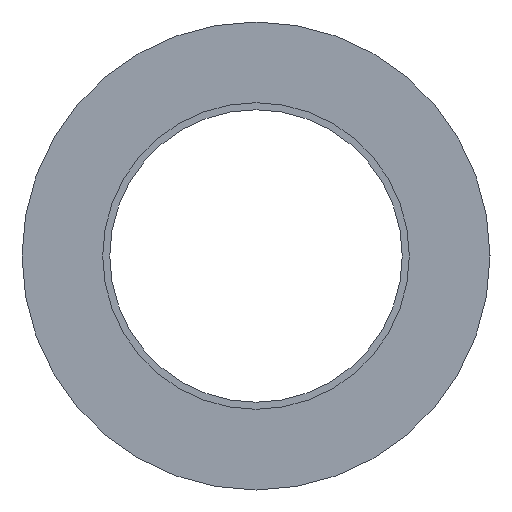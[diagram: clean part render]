
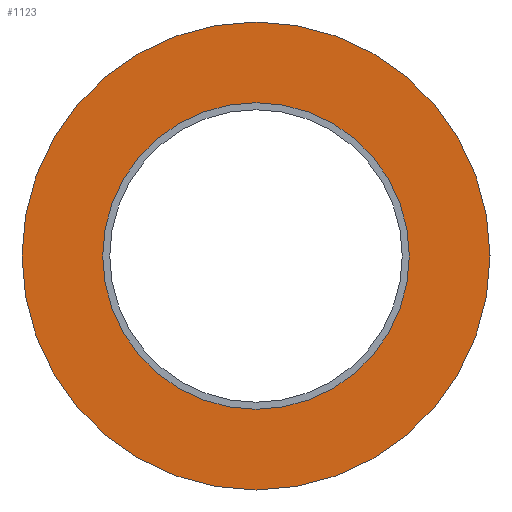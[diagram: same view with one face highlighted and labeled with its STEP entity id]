
A CAD part, left-side view. The second image highlights one B-rep face of the part: STEP entity #1123.
In plain terms, the highlighted planar face has unit normal (-1, 0, 0).
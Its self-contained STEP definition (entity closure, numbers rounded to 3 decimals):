
#49=CARTESIAN_POINT('',(-100.0,13.1,0.0));
#50=VERTEX_POINT('',#49);
#59=CARTESIAN_POINT('',(-100.0,-13.1,0.));
#60=VERTEX_POINT('',#59);
#61=CARTESIAN_POINT('',(-100.0,0.0,0.0));
#62=DIRECTION('',(1.0,0.0,0.0));
#63=DIRECTION('',(0.0,1.0,0.0));
#64=AXIS2_PLACEMENT_3D('',#61,#62,#63);
#65=CIRCLE('',#64,13.1);
#66=EDGE_CURVE('',#60,#50,#65,.T.);
#278=CARTESIAN_POINT('',(-100.0,20.0,0.0));
#279=VERTEX_POINT('',#278);
#288=CARTESIAN_POINT('',(-100.0,-20.0,0.));
#289=VERTEX_POINT('',#288);
#290=CARTESIAN_POINT('',(-100.0,0.0,0.0));
#291=DIRECTION('',(1.0,0.0,0.0));
#292=DIRECTION('',(0.0,1.0,0.0));
#293=AXIS2_PLACEMENT_3D('',#290,#291,#292);
#294=CIRCLE('',#293,20.0);
#295=EDGE_CURVE('',#279,#289,#294,.T.);
#947=CARTESIAN_POINT('',(-100.0,0.0,0.0));
#948=DIRECTION('',(1.0,0.0,0.0));
#949=DIRECTION('',(0.0,1.0,0.0));
#950=AXIS2_PLACEMENT_3D('',#947,#948,#949);
#951=CIRCLE('',#950,20.0);
#952=EDGE_CURVE('',#289,#279,#951,.T.);
#1100=CARTESIAN_POINT('',(-100.0,0.0,0.0));
#1101=DIRECTION('',(1.0,0.0,0.0));
#1102=DIRECTION('',(0.0,1.0,0.0));
#1103=AXIS2_PLACEMENT_3D('',#1100,#1101,#1102);
#1104=CIRCLE('',#1103,13.1);
#1105=EDGE_CURVE('',#50,#60,#1104,.T.);
#1110=CARTESIAN_POINT('',(-100.0,16.55,0.0));
#1111=DIRECTION('',(-1.0,0.0,0.0));
#1112=DIRECTION('',(0.0,0.0,1.0));
#1113=AXIS2_PLACEMENT_3D('',#1110,#1111,#1112);
#1114=PLANE('',#1113);
#1115=ORIENTED_EDGE('',*,*,#295,.F.);
#1116=ORIENTED_EDGE('',*,*,#952,.F.);
#1117=EDGE_LOOP('',(#1115,#1116));
#1118=FACE_OUTER_BOUND('',#1117,.T.);
#1119=ORIENTED_EDGE('',*,*,#1105,.T.);
#1120=ORIENTED_EDGE('',*,*,#66,.T.);
#1121=EDGE_LOOP('',(#1119,#1120));
#1122=FACE_BOUND('',#1121,.T.);
#1123=ADVANCED_FACE('',(#1118,#1122),#1114,.T.);
